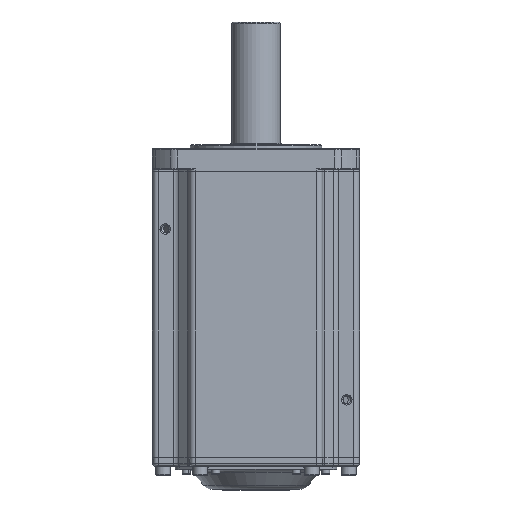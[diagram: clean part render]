
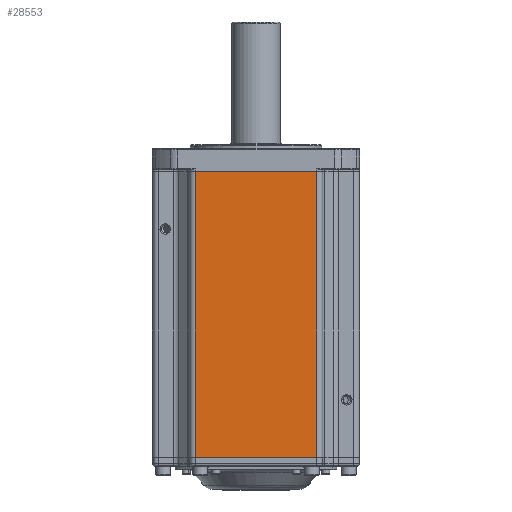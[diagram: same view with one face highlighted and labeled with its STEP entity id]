
A CAD part, front view. The second image highlights one B-rep face of the part: STEP entity #28553.
In plain terms, the highlighted planar face has unit normal (0, -1, 0).
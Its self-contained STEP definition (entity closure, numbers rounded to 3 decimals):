
#3535 = ORIENTED_EDGE ( 'NONE', *, *, #8822, .T. ) ;
#3913 = EDGE_CURVE ( 'NONE', #40484, #37043, #62008, .T. ) ;
#5085 = ORIENTED_EDGE ( 'NONE', *, *, #3913, .T. ) ;
#5885 = VERTEX_POINT ( 'NONE', #24291 ) ;
#6387 = DIRECTION ( 'NONE',  ( -1., 0., 0. ) ) ;
#6549 = DIRECTION ( 'NONE',  ( 0., 0., -1. ) ) ;
#6968 = VECTOR ( 'NONE', #34145, 1000. ) ;
#8615 = DIRECTION ( 'NONE',  ( 0., 1., 0. ) ) ;
#8822 = EDGE_CURVE ( 'NONE', #52353, #40484, #57614, .T. ) ;
#9027 = CARTESIAN_POINT ( 'NONE',  ( 58.026, -89.007, -896.673 ) ) ;
#11277 = ORIENTED_EDGE ( 'NONE', *, *, #23207, .T. ) ;
#13568 = DIRECTION ( 'NONE',  ( 0., 0., -1. ) ) ;
#14775 = VECTOR ( 'NONE', #6549, 1000. ) ;
#16574 = ORIENTED_EDGE ( 'NONE', *, *, #17882, .T. ) ;
#17882 = EDGE_CURVE ( 'NONE', #5885, #52353, #53924, .T. ) ;
#19422 = CARTESIAN_POINT ( 'NONE',  ( -154.318, -89.007, -145.273 ) ) ;
#20634 = VECTOR ( 'NONE', #27136, 1000. ) ;
#22606 = CARTESIAN_POINT ( 'NONE',  ( 53.026, -89.007, -896.673 ) ) ;
#23207 = EDGE_CURVE ( 'NONE', #37043, #5885, #44847, .T. ) ;
#24291 = CARTESIAN_POINT ( 'NONE',  ( 53.026, -89.007, -145.273 ) ) ;
#25216 = CARTESIAN_POINT ( 'NONE',  ( -52.974, -89.007, 103.327 ) ) ;
#27136 = DIRECTION ( 'NONE',  ( 0., 0., 1. ) ) ;
#28273 = PLANE ( 'NONE',  #34741 ) ;
#28553 = ADVANCED_FACE ( 'NONE', ( #44776 ), #28273, .F. ) ;
#31544 = CARTESIAN_POINT ( 'NONE',  ( -52.974, -89.007, -145.273 ) ) ;
#32253 = EDGE_LOOP ( 'NONE', ( #5085, #11277, #16574, #3535 ) ) ;
#34145 = DIRECTION ( 'NONE',  ( 1., 0., 0. ) ) ;
#34741 = AXIS2_PLACEMENT_3D ( 'NONE', #9027, #8615, #13568 ) ;
#37043 = VERTEX_POINT ( 'NONE', #31544 ) ;
#39309 = CARTESIAN_POINT ( 'NONE',  ( 53.026, -89.007, 103.327 ) ) ;
#40484 = VERTEX_POINT ( 'NONE', #25216 ) ;
#44776 = FACE_OUTER_BOUND ( 'NONE', #32253, .T. ) ;
#44847 = LINE ( 'NONE', #19422, #6968 ) ;
#50864 = CARTESIAN_POINT ( 'NONE',  ( -52.974, -89.007, -896.673 ) ) ;
#52353 = VERTEX_POINT ( 'NONE', #39309 ) ;
#53924 = LINE ( 'NONE', #22606, #20634 ) ;
#55465 = CARTESIAN_POINT ( 'NONE',  ( 58.026, -89.007, 103.327 ) ) ;
#57614 = LINE ( 'NONE', #55465, #62274 ) ;
#62008 = LINE ( 'NONE', #50864, #14775 ) ;
#62274 = VECTOR ( 'NONE', #6387, 1000. ) ;
